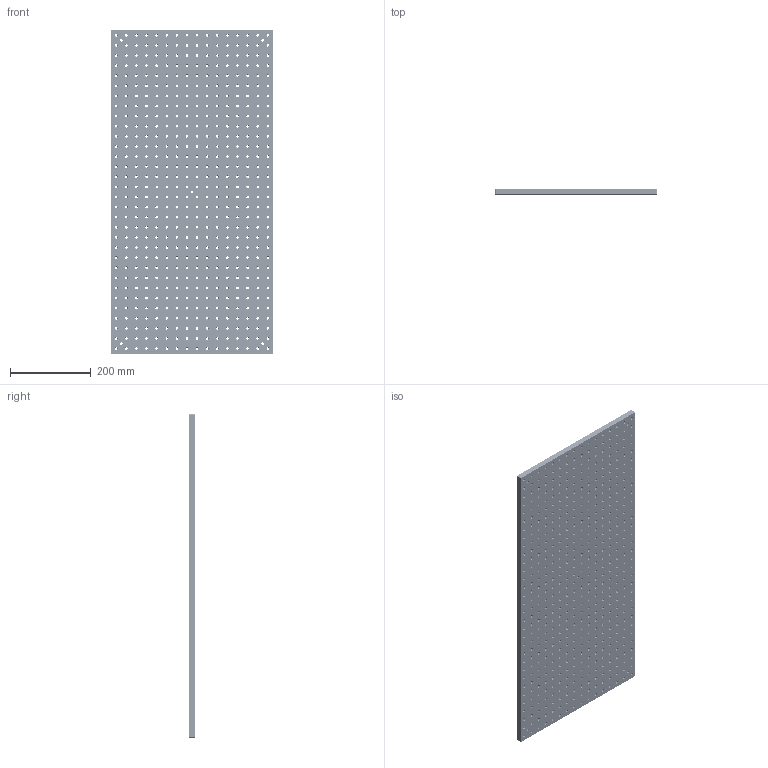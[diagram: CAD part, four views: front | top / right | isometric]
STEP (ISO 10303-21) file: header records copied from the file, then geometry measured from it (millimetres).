
FILE_DESCRIPTION((''),'2;1');
FILE_NAME('OHD-4080','2020-11-18T',('Administrator'),(''),'CREO PARAMETRIC BY PTC INC, 2017300','CREO PARAMETRIC BY PTC INC, 2017300','');
FILE_SCHEMA(('CONFIG_CONTROL_DESIGN'));
Products named in the file (1): OHD-4080
Bounding box: 400 x 14 x 800 mm (x, y, z)
Volume: 4269539 mm3; surface area: 775254.6 mm2
Topology: 1 solids, 1 shells, 3125 faces, 7296 edges, 4178 vertices
Faces by surface type: cone 2058, cylinder 1048, plane 19
Entity records: 90694 total; most frequent: DIRECTION 17684, CARTESIAN_POINT 14619, ORIENTED_EDGE 14592, EDGE_CURVE 7296, AXIS2_PLACEMENT_3D 7279, VERTEX_POINT 4178, EDGE_LOOP 4164, CIRCLE 4154
